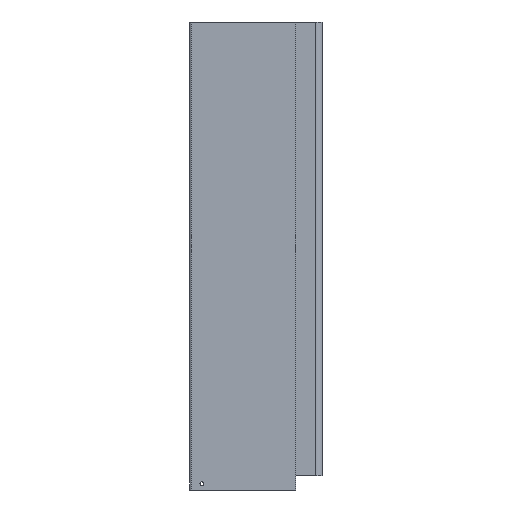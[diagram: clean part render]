
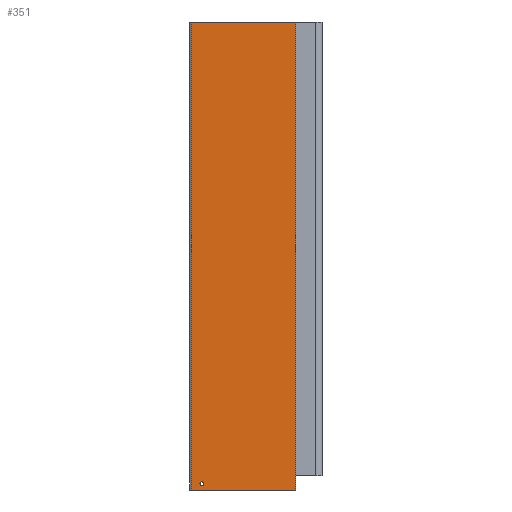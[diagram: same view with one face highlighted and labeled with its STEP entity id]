
A CAD part, left-side view. The second image highlights one B-rep face of the part: STEP entity #351.
In plain terms, the highlighted planar face has unit normal (-1, 0, 0).
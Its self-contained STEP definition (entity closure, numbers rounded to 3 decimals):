
#45 = DIRECTION ( 'NONE',  ( -1., 0., 0. ) ) ;
#50 = EDGE_CURVE ( 'NONE', #437, #696, #203, .T. ) ;
#59 = EDGE_CURVE ( 'NONE', #239, #696, #534, .T. ) ;
#85 = ORIENTED_EDGE ( 'NONE', *, *, #50, .T. ) ;
#116 = DIRECTION ( 'NONE',  ( 0., -1., 0. ) ) ;
#148 = CARTESIAN_POINT ( 'NONE',  ( -8., 14.6, -597.5 ) ) ;
#166 = FACE_OUTER_BOUND ( 'NONE', #523, .T. ) ;
#203 = LINE ( 'NONE', #236, #877 ) ;
#212 = DIRECTION ( 'NONE',  ( -1., 0., 0. ) ) ;
#236 = CARTESIAN_POINT ( 'NONE',  ( -8., -118.5, -749.266 ) ) ;
#239 = VERTEX_POINT ( 'NONE', #738 ) ;
#282 = LINE ( 'NONE', #482, #436 ) ;
#304 = CIRCLE ( 'NONE', #612, 2.5 ) ;
#341 = PLANE ( 'NONE',  #884 ) ;
#342 = EDGE_CURVE ( 'NONE', #491, #350, #304, .T. ) ;
#345 = DIRECTION ( 'NONE',  ( 0., -1., 0. ) ) ;
#350 = VERTEX_POINT ( 'NONE', #409 ) ;
#351 = ADVANCED_FACE ( 'NONE', ( #478, #166 ), #341, .F. ) ;
#375 = VERTEX_POINT ( 'NONE', #752 ) ;
#377 = ORIENTED_EDGE ( 'NONE', *, *, #59, .F. ) ;
#380 = CARTESIAN_POINT ( 'NONE',  ( -8., -118.5, 0. ) ) ;
#386 = EDGE_LOOP ( 'NONE', ( #480, #691 ) ) ;
#388 = EDGE_CURVE ( 'NONE', #375, #239, #282, .T. ) ;
#409 = CARTESIAN_POINT ( 'NONE',  ( -8., 1., -592. ) ) ;
#413 = EDGE_CURVE ( 'NONE', #437, #375, #757, .T. ) ;
#419 = CARTESIAN_POINT ( 'NONE',  ( -8., -118.5, -597.5 ) ) ;
#435 = AXIS2_PLACEMENT_3D ( 'NONE', #449, #45, #517 ) ;
#436 = VECTOR ( 'NONE', #546, 1000. ) ;
#437 = VERTEX_POINT ( 'NONE', #419 ) ;
#449 = CARTESIAN_POINT ( 'NONE',  ( -8., 1., -589.5 ) ) ;
#478 = FACE_BOUND ( 'NONE', #386, .T. ) ;
#480 = ORIENTED_EDGE ( 'NONE', *, *, #342, .F. ) ;
#482 = CARTESIAN_POINT ( 'NONE',  ( -8., 14.6, -749.266 ) ) ;
#491 = VERTEX_POINT ( 'NONE', #628 ) ;
#513 = VECTOR ( 'NONE', #116, 1000. ) ;
#517 = DIRECTION ( 'NONE',  ( 0., -1., 0. ) ) ;
#523 = EDGE_LOOP ( 'NONE', ( #85, #377, #826, #854 ) ) ;
#534 = LINE ( 'NONE', #837, #513 ) ;
#541 = CARTESIAN_POINT ( 'NONE',  ( -8., 14.6, -749.266 ) ) ;
#546 = DIRECTION ( 'NONE',  ( 0., 0., 1. ) ) ;
#575 = VECTOR ( 'NONE', #620, 1000. ) ;
#592 = DIRECTION ( 'NONE',  ( 0., 0., 1. ) ) ;
#612 = AXIS2_PLACEMENT_3D ( 'NONE', #616, #212, #678 ) ;
#616 = CARTESIAN_POINT ( 'NONE',  ( -8., 1., -589.5 ) ) ;
#620 = DIRECTION ( 'NONE',  ( 0., 1., 0. ) ) ;
#628 = CARTESIAN_POINT ( 'NONE',  ( -8., 1., -587. ) ) ;
#678 = DIRECTION ( 'NONE',  ( 0., -1., 0. ) ) ;
#691 = ORIENTED_EDGE ( 'NONE', *, *, #751, .F. ) ;
#696 = VERTEX_POINT ( 'NONE', #380 ) ;
#722 = CIRCLE ( 'NONE', #435, 2.5 ) ;
#738 = CARTESIAN_POINT ( 'NONE',  ( -8., 14.6, 0. ) ) ;
#750 = DIRECTION ( 'NONE',  ( 1., 0., 0. ) ) ;
#751 = EDGE_CURVE ( 'NONE', #350, #491, #722, .T. ) ;
#752 = CARTESIAN_POINT ( 'NONE',  ( -8., 14.6, -597.5 ) ) ;
#757 = LINE ( 'NONE', #148, #575 ) ;
#826 = ORIENTED_EDGE ( 'NONE', *, *, #388, .F. ) ;
#837 = CARTESIAN_POINT ( 'NONE',  ( -8., 14.6, 0. ) ) ;
#854 = ORIENTED_EDGE ( 'NONE', *, *, #413, .F. ) ;
#877 = VECTOR ( 'NONE', #592, 1000. ) ;
#884 = AXIS2_PLACEMENT_3D ( 'NONE', #541, #750, #345 ) ;
